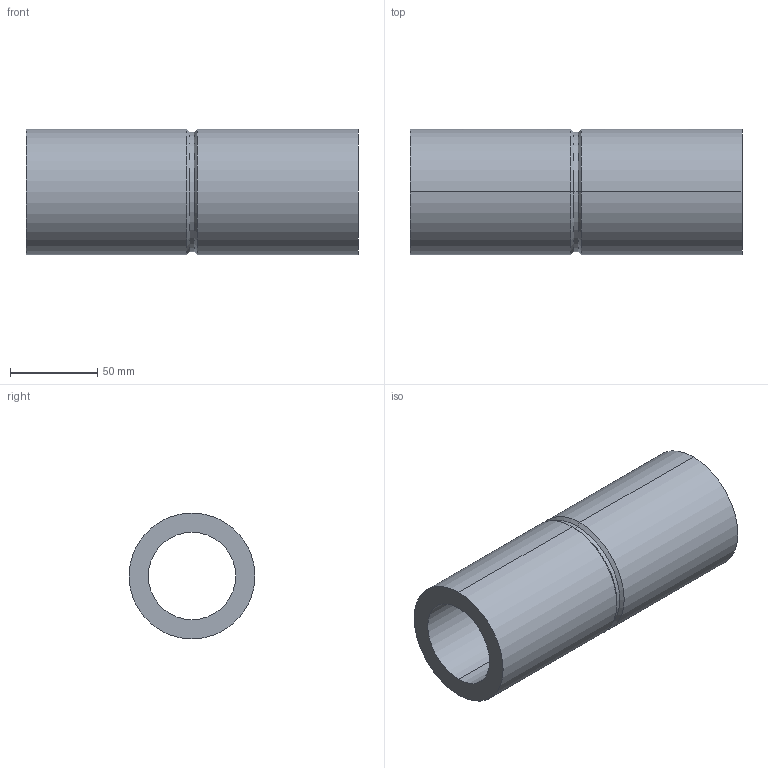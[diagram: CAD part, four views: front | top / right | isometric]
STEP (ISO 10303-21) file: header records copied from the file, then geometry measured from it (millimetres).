
FILE_DESCRIPTION (( 'STEP AP203' ), '1' );
FILE_NAME ('ZD5020-R-3EB.STEP', '2002-08-15T11:56:11', ( '.' ), ( '.' ), 'SwSTEP 2.0', 'SolidWorks 2001340', '' );
FILE_SCHEMA (( 'CONFIG_CONTROL_DESIGN' ));
Length unit declared in the file: millimetre
Products named in the file (1): ZD5020-R-3EB
Bounding box: 190 x 72 x 72 mm (x, y, z)
Volume: 398388.2 mm3; surface area: 77576 mm2
Topology: 1 solids, 1 shells, 24 faces, 52 edges, 32 vertices
Faces by surface type: cylinder 12, plane 8, cone 4
Entity records: 837 total; most frequent: CARTESIAN_POINT 221, DIRECTION 118, ORIENTED_EDGE 104, EDGE_CURVE 52, AXIS2_PLACEMENT_3D 45, VERTEX_POINT 32, EDGE_LOOP 28, LINE 28
